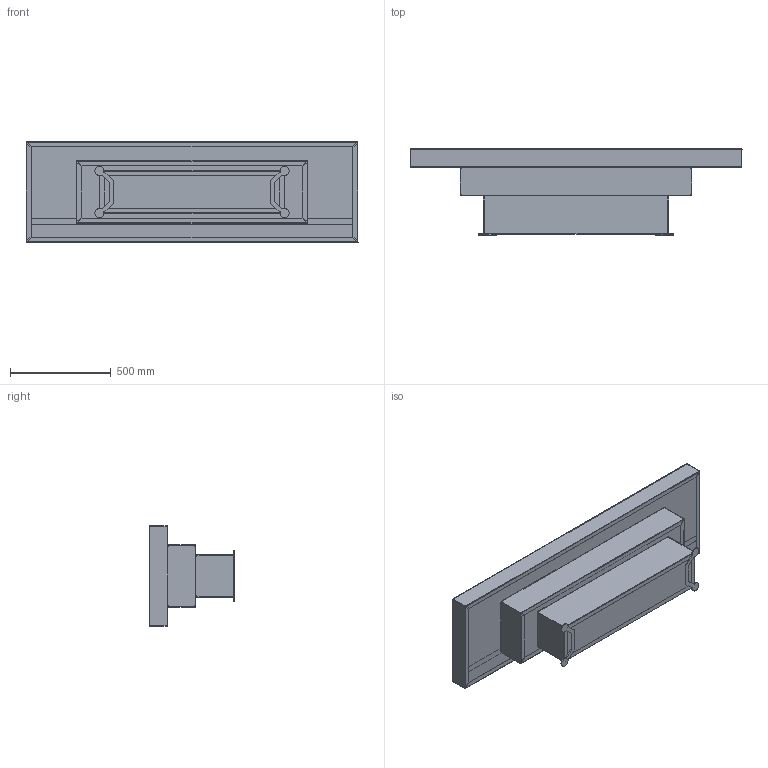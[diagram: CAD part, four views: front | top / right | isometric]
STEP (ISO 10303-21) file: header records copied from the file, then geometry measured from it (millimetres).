
FILE_DESCRIPTION (( 'STEP AP214' ), '1' );
FILE_NAME ('Eskoleia UNIT 006.STEP', '2026-09-12T21:37:34', ( '' ), ( '' ), 'SwSTEP 2.0', 'SolidWorks 2025', '' );
FILE_SCHEMA (( 'AUTOMOTIVE_DESIGN' ));
Length unit declared in the file: millimetre
Products named in the file (1): Eskoleia UNIT 006
Bounding box: 1650 x 427 x 500.01 mm (x, y, z)
Volume: 6324480.8 mm3; surface area: 8326213.1 mm2
Topology: 2 solids, 2 shells, 456 faces, 1478 edges, 940 vertices
Faces by surface type: plane 365, bspline 64, cylinder 27
Entity records: 20239 total; most frequent: CARTESIAN_POINT 7822, ORIENTED_EDGE 2956, DIRECTION 2042, EDGE_CURVE 1478, LINE 1132, VECTOR 1132, VERTEX_POINT 940, EDGE_LOOP 492
